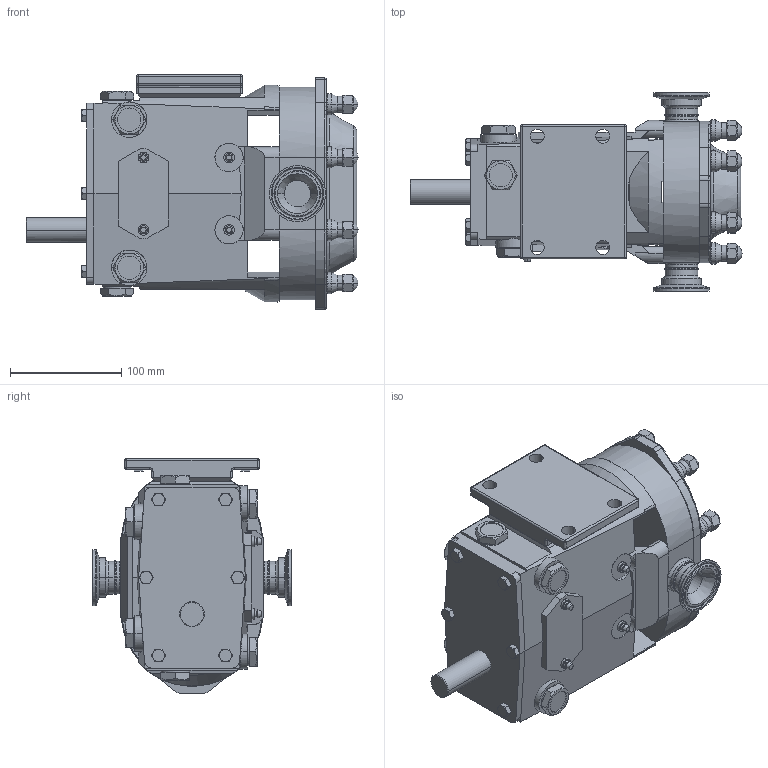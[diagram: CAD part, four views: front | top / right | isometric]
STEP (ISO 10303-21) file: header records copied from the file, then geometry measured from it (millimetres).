
FILE_DESCRIPTION (( 'STEP AP203' ), '1' );
FILE_NAME ('Waukesha 006U2-Upper Shaft.STEP', '2019-01-22T19:48:34', ( '' ), ( '' ), 'SwSTEP 2.0', 'SolidWorks 2014', '' );
FILE_SCHEMA (( 'CONFIG_CONTROL_DESIGN' ));
Length unit declared in the file: inch
Products named in the file (1): Waukesha 006U2-Upper Shaft
Bounding box: 298.41 x 178.21 x 211.02 mm (x, y, z)
Volume: 3892902 mm3; surface area: 286478.2 mm2
Topology: 1 solids, 23 shells, 1466 faces, 3598 edges, 2240 vertices
Faces by surface type: plane 768, cylinder 286, cone 217, bspline 111, torus 60, sphere 24
Entity records: 45714 total; most frequent: CARTESIAN_POINT 12088, ORIENTED_EDGE 7060, DIRECTION 6645, EDGE_CURVE 3530, AXIS2_PLACEMENT_3D 2245, VERTEX_POINT 2240, VECTOR 2155, LINE 2155
